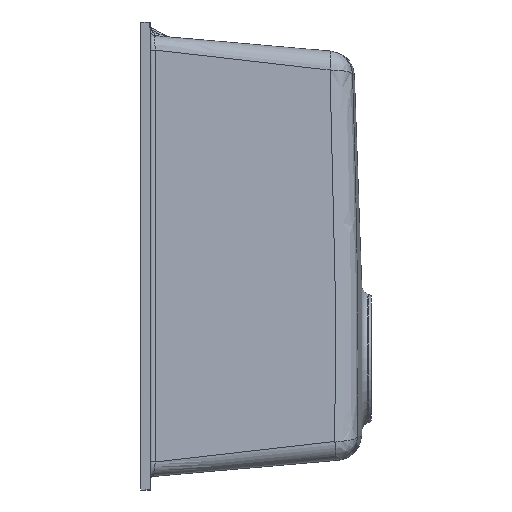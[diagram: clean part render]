
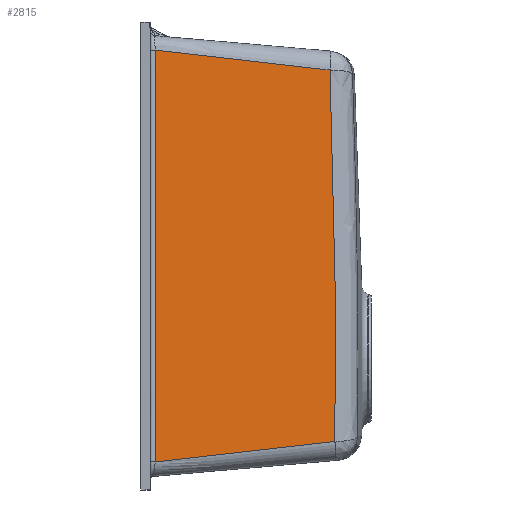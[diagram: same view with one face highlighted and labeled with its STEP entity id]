
A CAD part, left-side view. The second image highlights one B-rep face of the part: STEP entity #2815.
In plain terms, the highlighted planar face has unit normal (-0.996, -0.087, 0).
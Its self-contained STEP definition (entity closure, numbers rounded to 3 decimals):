
#36 = FACE_OUTER_BOUND ( 'NONE', #6942, .T. ) ;
#392 = CARTESIAN_POINT ( 'NONE',  ( -192.303, -172.506, -159.381 ) ) ;
#447 = CARTESIAN_POINT ( 'NONE',  ( -207.084, -3.564, 208.582 ) ) ;
#491 = B_SPLINE_CURVE_WITH_KNOTS ( 'NONE', 3,
 ( #7771, #3618, #4233, #550 ),
 .UNSPECIFIED., .F., .F.,
 ( 4, 4 ),
 ( 0.013, 0.179 ),
 .UNSPECIFIED. ) ;
#550 = CARTESIAN_POINT ( 'NONE',  ( -192.703, -167.939, 189.762 ) ) ;
#746 = CARTESIAN_POINT ( 'NONE',  ( -192.424, -171.124, 73.404 ) ) ;
#793 = CARTESIAN_POINT ( 'NONE',  ( -197.241, -116.064, -164.319 ) ) ;
#1221 = B_SPLINE_CURVE_WITH_KNOTS ( 'NONE', 3,
 ( #7358, #7382, #4420, #746, #5014, #1352, #5616, #1953, #6201, #2587, #6811, #3224, #7408, #3851 ),
 .UNSPECIFIED., .F., .F.,
 ( 4, 2, 2, 2, 2, 2, 4 ),
 ( 0., 0.087, 0.175, 0.218, 0.262, 0.306, 0.349 ),
 .UNSPECIFIED. ) ;
#1262 = ORIENTED_EDGE ( 'NONE', *, *, #3896, .T. ) ;
#1352 = CARTESIAN_POINT ( 'NONE',  ( -192.299, -172.552, 0.666 ) ) ;
#1611 = ORIENTED_EDGE ( 'NONE', *, *, #5344, .F. ) ;
#1762 = VERTEX_POINT ( 'NONE', #447 ) ;
#1953 = CARTESIAN_POINT ( 'NONE',  ( -192.254, -173.065, -42.98 ) ) ;
#2187 = CARTESIAN_POINT ( 'NONE',  ( -192.296, -172.595, -159.372 ) ) ;
#2495 = CARTESIAN_POINT ( 'NONE',  ( -207.084, -3.564, -178.614 ) ) ;
#2587 = CARTESIAN_POINT ( 'NONE',  ( -192.241, -173.214, -86.627 ) ) ;
#2640 = CARTESIAN_POINT ( 'NONE',  ( -202.163, -59.808, -171.391 ) ) ;
#2815 = ADVANCED_FACE ( 'NONE', ( #36 ), #6359, .T. ) ;
#2848 = CARTESIAN_POINT ( 'NONE',  ( -207.084, -3.564, -178.614 ) ) ;
#3224 = CARTESIAN_POINT ( 'NONE',  ( -192.263, -172.972, -130.274 ) ) ;
#3237 = VERTEX_POINT ( 'NONE', #4896 ) ;
#3396 = VERTEX_POINT ( 'NONE', #2495 ) ;
#3563 = B_SPLINE_CURVE_WITH_KNOTS ( 'NONE', 3,
 ( #5256, #7633, #6450, #2848 ),
 .UNSPECIFIED., .F., .F.,
 ( 4, 4 ),
 ( 0.007, 0.394 ),
 .UNSPECIFIED. ) ;
#3618 = CARTESIAN_POINT ( 'NONE',  ( -202.296, -58.285, 201.497 ) ) ;
#3851 = CARTESIAN_POINT ( 'NONE',  ( -192.296, -172.595, -159.372 ) ) ;
#3896 = EDGE_CURVE ( 'NONE', #1762, #3396, #3563, .T. ) ;
#4084 = CARTESIAN_POINT ( 'NONE',  ( -192.301, -172.536, -159.379 ) ) ;
#4233 = CARTESIAN_POINT ( 'NONE',  ( -197.508, -113.02, 194.567 ) ) ;
#4270 = DIRECTION ( 'NONE',  ( 0.087, -0.996, 0. ) ) ;
#4280 = DIRECTION ( 'NONE',  ( -0.996, -0.087, 0. ) ) ;
#4301 = CARTESIAN_POINT ( 'NONE',  ( -208.21, 9.303, 215.231 ) ) ;
#4420 = CARTESIAN_POINT ( 'NONE',  ( -192.555, -169.627, 131.585 ) ) ;
#4476 = EDGE_CURVE ( 'NONE', #3237, #7643, #1221, .T. ) ;
#4896 = CARTESIAN_POINT ( 'NONE',  ( -192.703, -167.939, 189.762 ) ) ;
#4909 = ORIENTED_EDGE ( 'NONE', *, *, #4476, .F. ) ;
#4911 = B_SPLINE_CURVE_WITH_KNOTS ( 'NONE', 3,
 ( #2187, #6441, #4084, #392 ),
 .UNSPECIFIED., .F., .F.,
 ( 4, 4 ),
 ( 0., 0. ),
 .UNSPECIFIED. ) ;
#5014 = CARTESIAN_POINT ( 'NONE',  ( -192.366, -171.796, 44.311 ) ) ;
#5058 = AXIS2_PLACEMENT_3D ( 'NONE', #4301, #4280, #4270 ) ;
#5122 = B_SPLINE_CURVE_WITH_KNOTS ( 'NONE', 3,
 ( #7435, #793, #2640, #6857 ),
 .UNSPECIFIED., .F., .F.,
 ( 4, 4 ),
 ( -0.073, 0.098 ),
 .UNSPECIFIED. ) ;
#5256 = CARTESIAN_POINT ( 'NONE',  ( -207.084, -3.564, 208.582 ) ) ;
#5344 = EDGE_CURVE ( 'NONE', #5473, #3396, #5122, .T. ) ;
#5473 = VERTEX_POINT ( 'NONE', #7316 ) ;
#5616 = CARTESIAN_POINT ( 'NONE',  ( -192.281, -172.761, -13.883 ) ) ;
#6201 = CARTESIAN_POINT ( 'NONE',  ( -192.246, -173.159, -57.529 ) ) ;
#6359 = PLANE ( 'NONE',  #5058 ) ;
#6441 = CARTESIAN_POINT ( 'NONE',  ( -192.298, -172.566, -159.376 ) ) ;
#6442 = EDGE_CURVE ( 'NONE', #7643, #5473, #4911, .T. ) ;
#6450 = CARTESIAN_POINT ( 'NONE',  ( -207.084, -3.564, -49.549 ) ) ;
#6721 = EDGE_CURVE ( 'NONE', #1762, #3237, #491, .T. ) ;
#6811 = CARTESIAN_POINT ( 'NONE',  ( -192.245, -173.176, -101.176 ) ) ;
#6857 = CARTESIAN_POINT ( 'NONE',  ( -207.084, -3.564, -178.614 ) ) ;
#6942 = EDGE_LOOP ( 'NONE', ( #7672, #1262, #1611, #7723, #4909 ) ) ;
#7189 = CARTESIAN_POINT ( 'NONE',  ( -192.296, -172.595, -159.372 ) ) ;
#7316 = CARTESIAN_POINT ( 'NONE',  ( -192.303, -172.506, -159.381 ) ) ;
#7358 = CARTESIAN_POINT ( 'NONE',  ( -192.703, -167.939, 189.762 ) ) ;
#7382 = CARTESIAN_POINT ( 'NONE',  ( -192.627, -168.801, 160.674 ) ) ;
#7408 = CARTESIAN_POINT ( 'NONE',  ( -192.277, -172.809, -144.823 ) ) ;
#7435 = CARTESIAN_POINT ( 'NONE',  ( -192.303, -172.506, -159.381 ) ) ;
#7633 = CARTESIAN_POINT ( 'NONE',  ( -207.084, -3.564, 79.517 ) ) ;
#7643 = VERTEX_POINT ( 'NONE', #7189 ) ;
#7672 = ORIENTED_EDGE ( 'NONE', *, *, #6721, .F. ) ;
#7723 = ORIENTED_EDGE ( 'NONE', *, *, #6442, .F. ) ;
#7771 = CARTESIAN_POINT ( 'NONE',  ( -207.084, -3.564, 208.582 ) ) ;
